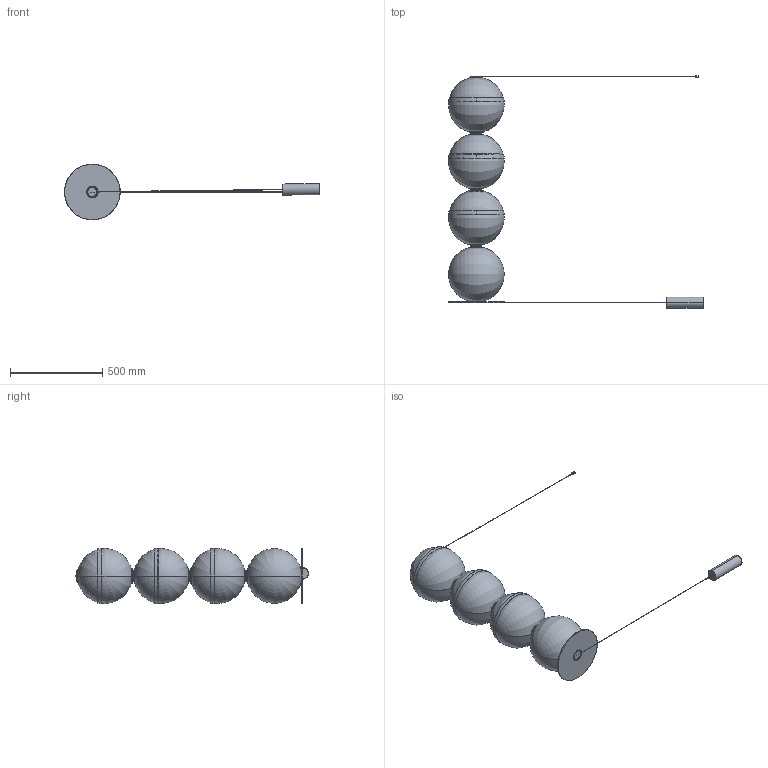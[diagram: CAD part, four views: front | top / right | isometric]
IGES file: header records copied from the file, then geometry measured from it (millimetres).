
Start section: SolidWorks IGES file using analytic representation for surfaces
Global section: file name: \\ARNOLD\compartida\Nueva Coleccion Septiembre 2026\LUDO_1368\LUDO_P1368\3D\LUDO_P1368.IGS; native system: SolidWorks 2023; preprocessor: SolidWorks 2023; author: adrian; date: 260827.132545; units: millimetre
Bounding box: 1380.35 x 1258.09 x 301.86 mm (x, y, z)
Surface area: 1876182.8 mm2 (no closed solid volume)
Topology: 0 solids, 0 shells, 304 faces, 5961 edges, 5953 vertices
Faces by surface type: revolution 193, bspline 111
